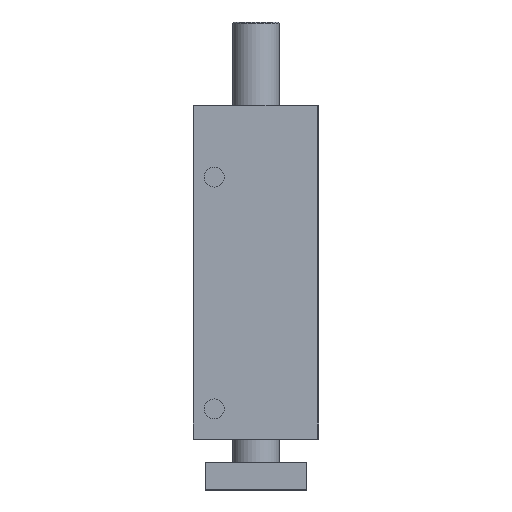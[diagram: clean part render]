
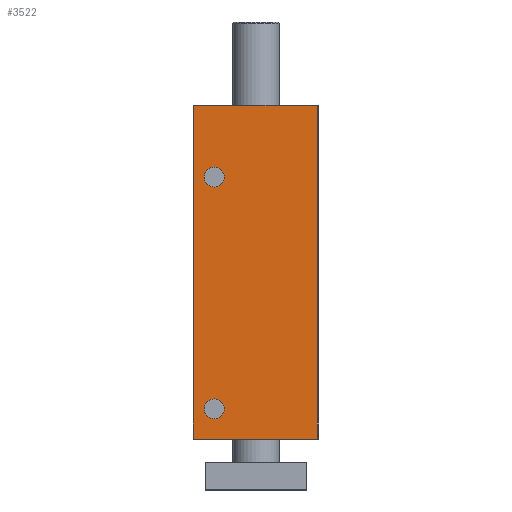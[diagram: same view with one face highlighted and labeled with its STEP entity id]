
A CAD part, front view. The second image highlights one B-rep face of the part: STEP entity #3522.
In plain terms, the highlighted planar face has unit normal (0, -1, 0).
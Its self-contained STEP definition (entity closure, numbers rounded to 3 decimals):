
#255=CARTESIAN_POINT('',(-27.0,-60.0,0.0));
#256=VERTEX_POINT('',#255);
#263=CARTESIAN_POINT('',(-27.0,-60.0,144.0));
#264=VERTEX_POINT('',#263);
#265=CARTESIAN_POINT('',(-27.0,-60.0,0.0));
#266=DIRECTION('',(0.0,0.0,1.0));
#267=VECTOR('',#266,144.0);
#268=LINE('',#265,#267);
#269=EDGE_CURVE('',#256,#264,#268,.T.);
#971=CARTESIAN_POINT('',(26.5,-60.0,0.0));
#972=VERTEX_POINT('',#971);
#979=CARTESIAN_POINT('',(-27.0,-60.0,0.0));
#980=DIRECTION('',(1.0,0.0,0.0));
#981=VECTOR('',#980,53.5);
#982=LINE('',#979,#981);
#983=EDGE_CURVE('',#256,#972,#982,.T.);
#2359=CARTESIAN_POINT('',(-13.717,-60.0,113.0));
#2360=VERTEX_POINT('',#2359);
#2361=CARTESIAN_POINT('',(-18.0,-60.0,113.0));
#2362=DIRECTION('',(0.0,1.0,0.0));
#2363=DIRECTION('',(1.0,0.0,0.0));
#2364=AXIS2_PLACEMENT_3D('',#2361,#2362,#2363);
#2365=CIRCLE('',#2364,4.283);
#2366=EDGE_CURVE('',#2360,#2360,#2365,.T.);
#2396=CARTESIAN_POINT('',(-13.717,-60.0,13.));
#2397=VERTEX_POINT('',#2396);
#2398=CARTESIAN_POINT('',(-18.0,-60.0,13.));
#2399=DIRECTION('',(0.0,1.0,0.0));
#2400=DIRECTION('',(1.0,0.0,0.0));
#2401=AXIS2_PLACEMENT_3D('',#2398,#2399,#2400);
#2402=CIRCLE('',#2401,4.283);
#2403=EDGE_CURVE('',#2397,#2397,#2402,.T.);
#3481=CARTESIAN_POINT('',(26.5,-60.0,144.0));
#3482=VERTEX_POINT('',#3481);
#3489=CARTESIAN_POINT('',(26.5,-60.0,0.0));
#3490=DIRECTION('',(0.0,0.0,1.0));
#3491=VECTOR('',#3490,144.0);
#3492=LINE('',#3489,#3491);
#3493=EDGE_CURVE('',#972,#3482,#3492,.T.);
#3500=CARTESIAN_POINT('',(26.5,-60.0,0.0));
#3501=DIRECTION('',(0.0,-1.0,0.0));
#3502=DIRECTION('',(0.0,0.0,-1.0));
#3503=AXIS2_PLACEMENT_3D('',#3500,#3501,#3502);
#3504=PLANE('',#3503);
#3505=CARTESIAN_POINT('',(26.5,-60.0,144.0));
#3506=DIRECTION('',(-1.0,0.0,0.0));
#3507=VECTOR('',#3506,53.5);
#3508=LINE('',#3505,#3507);
#3509=EDGE_CURVE('',#3482,#264,#3508,.T.);
#3510=ORIENTED_EDGE('',*,*,#3509,.T.);
#3511=ORIENTED_EDGE('',*,*,#269,.F.);
#3512=ORIENTED_EDGE('',*,*,#983,.T.);
#3513=ORIENTED_EDGE('',*,*,#3493,.T.);
#3514=EDGE_LOOP('',(#3510,#3511,#3512,#3513));
#3515=FACE_OUTER_BOUND('',#3514,.T.);
#3516=ORIENTED_EDGE('',*,*,#2366,.T.);
#3517=EDGE_LOOP('',(#3516));
#3518=FACE_BOUND('',#3517,.T.);
#3519=ORIENTED_EDGE('',*,*,#2403,.T.);
#3520=EDGE_LOOP('',(#3519));
#3521=FACE_BOUND('',#3520,.T.);
#3522=ADVANCED_FACE('',(#3515,#3518,#3521),#3504,.T.);
